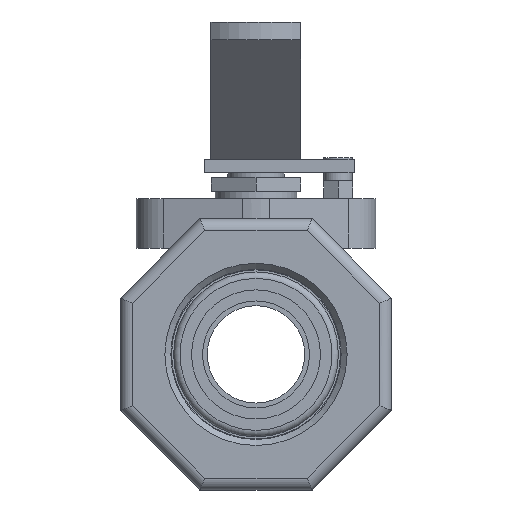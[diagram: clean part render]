
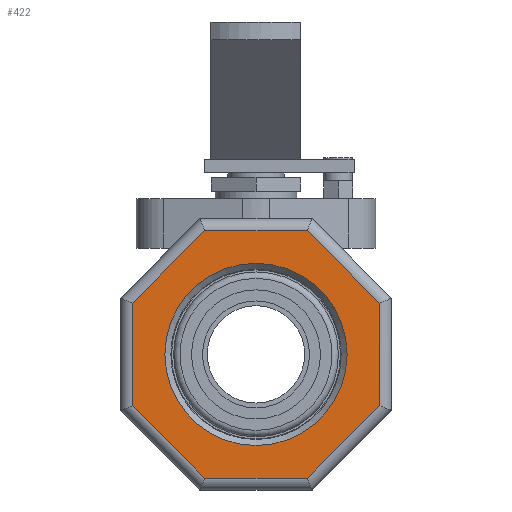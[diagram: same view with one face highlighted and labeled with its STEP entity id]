
A CAD part, left-side view. The second image highlights one B-rep face of the part: STEP entity #422.
In plain terms, the highlighted planar face has unit normal (-1, 0, 0).
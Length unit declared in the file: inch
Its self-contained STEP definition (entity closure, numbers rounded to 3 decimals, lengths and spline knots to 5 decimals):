
#336=CARTESIAN_POINT('',(0.602,0.7625,0.0));
#337=VERTEX_POINT('',#336);
#338=CARTESIAN_POINT('',(0.602,0.0,0.0));
#339=DIRECTION('',(-1.0,0.0,0.0));
#340=DIRECTION('',(0.0,-1.0,0.0));
#341=AXIS2_PLACEMENT_3D('',#338,#339,#340);
#342=CIRCLE('',#341,0.7625);
#343=EDGE_CURVE('',#337,#337,#342,.T.);
#348=CARTESIAN_POINT('',(0.602,0.0,0.0));
#349=DIRECTION('',(1.0,0.0,0.0));
#350=DIRECTION('',(0.0,0.0,-1.0));
#351=AXIS2_PLACEMENT_3D('',#348,#349,#350);
#352=PLANE('',#351);
#353=CARTESIAN_POINT('',(0.602,-1.035,-0.42871));
#354=VERTEX_POINT('',#353);
#355=CARTESIAN_POINT('',(0.602,-0.42871,-1.035));
#356=VERTEX_POINT('',#355);
#357=CARTESIAN_POINT('',(0.602,-1.035,-0.42871));
#358=DIRECTION('',(0.0,0.707,-0.707));
#359=VECTOR('',#358,0.85742);
#360=LINE('',#357,#359);
#361=EDGE_CURVE('',#354,#356,#360,.T.);
#362=ORIENTED_EDGE('',*,*,#361,.F.);
#363=CARTESIAN_POINT('',(0.602,-1.035,0.42871));
#364=VERTEX_POINT('',#363);
#365=CARTESIAN_POINT('',(0.602,-1.035,0.42871));
#366=DIRECTION('',(0.0,0.0,-1.0));
#367=VECTOR('',#366,0.85742);
#368=LINE('',#365,#367);
#369=EDGE_CURVE('',#364,#354,#368,.T.);
#370=ORIENTED_EDGE('',*,*,#369,.F.);
#371=CARTESIAN_POINT('',(0.602,-0.42871,1.035));
#372=VERTEX_POINT('',#371);
#373=CARTESIAN_POINT('',(0.602,-0.42871,1.035));
#374=DIRECTION('',(0.0,-0.707,-0.707));
#375=VECTOR('',#374,0.85742);
#376=LINE('',#373,#375);
#377=EDGE_CURVE('',#372,#364,#376,.T.);
#378=ORIENTED_EDGE('',*,*,#377,.F.);
#379=CARTESIAN_POINT('',(0.602,0.42871,1.035));
#380=VERTEX_POINT('',#379);
#381=CARTESIAN_POINT('',(0.602,0.42871,1.035));
#382=DIRECTION('',(0.0,-1.0,0.0));
#383=VECTOR('',#382,0.85742);
#384=LINE('',#381,#383);
#385=EDGE_CURVE('',#380,#372,#384,.T.);
#386=ORIENTED_EDGE('',*,*,#385,.F.);
#387=CARTESIAN_POINT('',(0.602,1.035,0.42871));
#388=VERTEX_POINT('',#387);
#389=CARTESIAN_POINT('',(0.602,1.035,0.42871));
#390=DIRECTION('',(0.0,-0.707,0.707));
#391=VECTOR('',#390,0.85742);
#392=LINE('',#389,#391);
#393=EDGE_CURVE('',#388,#380,#392,.T.);
#394=ORIENTED_EDGE('',*,*,#393,.F.);
#395=CARTESIAN_POINT('',(0.602,1.035,-0.42871));
#396=VERTEX_POINT('',#395);
#397=CARTESIAN_POINT('',(0.602,1.035,-0.42871));
#398=DIRECTION('',(0.0,0.0,1.0));
#399=VECTOR('',#398,0.85742);
#400=LINE('',#397,#399);
#401=EDGE_CURVE('',#396,#388,#400,.T.);
#402=ORIENTED_EDGE('',*,*,#401,.F.);
#403=CARTESIAN_POINT('',(0.602,0.42871,-1.035));
#404=VERTEX_POINT('',#403);
#405=CARTESIAN_POINT('',(0.602,0.42871,-1.035));
#406=DIRECTION('',(0.0,0.707,0.707));
#407=VECTOR('',#406,0.85742);
#408=LINE('',#405,#407);
#409=EDGE_CURVE('',#404,#396,#408,.T.);
#410=ORIENTED_EDGE('',*,*,#409,.F.);
#411=CARTESIAN_POINT('',(0.602,-0.42871,-1.035));
#412=DIRECTION('',(0.0,1.0,0.0));
#413=VECTOR('',#412,0.85742);
#414=LINE('',#411,#413);
#415=EDGE_CURVE('',#356,#404,#414,.T.);
#416=ORIENTED_EDGE('',*,*,#415,.F.);
#417=EDGE_LOOP('',(#362,#370,#378,#386,#394,#402,#410,#416));
#418=FACE_OUTER_BOUND('',#417,.T.);
#419=ORIENTED_EDGE('',*,*,#343,.F.);
#420=EDGE_LOOP('',(#419));
#421=FACE_BOUND('',#420,.T.);
#422=ADVANCED_FACE('',(#418,#421),#352,.F.);
